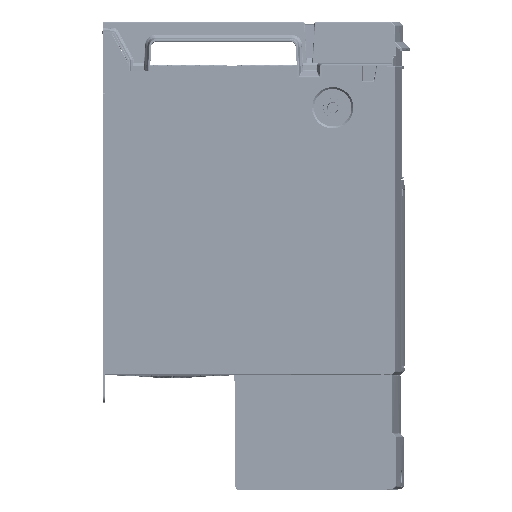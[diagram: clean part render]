
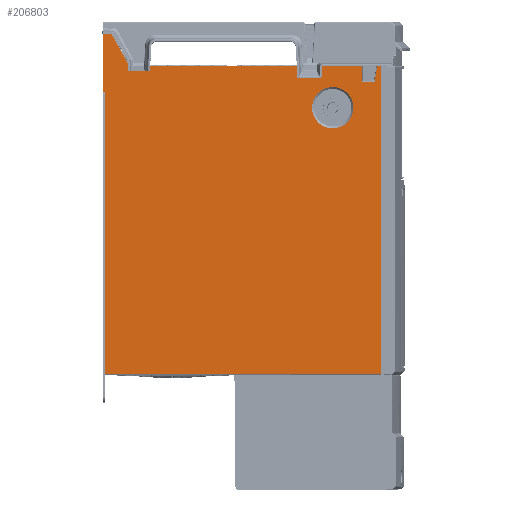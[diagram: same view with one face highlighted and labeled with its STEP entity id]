
A CAD part, top view. The second image highlights one B-rep face of the part: STEP entity #206803.
In plain terms, the highlighted planar face has unit normal (0, 0, 1).
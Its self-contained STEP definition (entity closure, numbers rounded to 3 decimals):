
#13532=DIRECTION('',(-1.,0.,0.));
#13533=VECTOR('',#13532,186.051);
#13534=CARTESIAN_POINT('',(202.268,247.,26.2));
#13535=LINE('',#13534,#13533);
#13723=DIRECTION('',(-1.,0.,0.));
#13724=VECTOR('',#13723,3.299);
#13725=CARTESIAN_POINT('',(217.812,247.,26.2));
#13726=LINE('',#13725,#13724);
#13731=DIRECTION('',(0.,1.,0.));
#13732=VECTOR('',#13731,246.);
#13733=CARTESIAN_POINT('',(217.812,1.,
26.2));
#13734=LINE('',#13733,#13732);
#13735=DIRECTION('',(1.,0.,0.));
#13736=VECTOR('',#13735,220.812);
#13737=CARTESIAN_POINT('',(-3.,1.,26.2));
#13738=LINE('',#13737,#13736);
#13946=DIRECTION('',(0.,-1.,0.));
#13947=VECTOR('',#13946,224.);
#13948=CARTESIAN_POINT('',(-3.,225.,26.2));
#13949=LINE('',#13948,#13947);
#14824=DIRECTION('',(0.,-1.,0.));
#14825=VECTOR('',#14824,1.506);
#14826=CARTESIAN_POINT('',(-3.,226.506,26.2));
#14827=LINE('',#14826,#14825);
#16063=DIRECTION('',(-1.,0.,0.));
#16064=VECTOR('',#16063,6.706);
#16065=CARTESIAN_POINT('',(2.206,273.,26.2));
#16066=LINE('',#16065,#16064);
#28974=DIRECTION('',(-0.087,0.996,0.));
#28975=VECTOR('',#28974,0.947);
#28976=CARTESIAN_POINT('',(16.217,247.,26.2));
#28977=LINE('',#28976,#28975);
#28992=DIRECTION('',(0.,1.,0.));
#28993=VECTOR('',#28992,46.46);
#28994=CARTESIAN_POINT('',(-4.5,226.54,26.2));
#28995=LINE('',#28994,#28993);
#28996=DIRECTION('',(0.486,-0.874,0.));
#28997=VECTOR('',#28996,28.667);
#28998=CARTESIAN_POINT('',(2.206,273.,26.2));
#28999=LINE('',#28998,#28997);
#29000=DIRECTION('',(0.174,0.985,0.));
#29001=VECTOR('',#29000,12.319);
#29002=CARTESIAN_POINT('',(212.372,234.868,26.2));
#29003=LINE('',#29002,#29001);
#29004=CARTESIAN_POINT('',(179.,214.,26.2));
#29005=DIRECTION('',(0.,0.,-1.));
#29006=DIRECTION('',(0.,-1.,0.));
#29007=AXIS2_PLACEMENT_3D('',#29004,#29005,#29006);
#29014=CARTESIAN_POINT('',(179.,214.,26.2));
#29015=DIRECTION('',(0.,0.,-1.));
#29016=DIRECTION('',(0.,1.,0.));
#29017=AXIS2_PLACEMENT_3D('',#29014,#29015,#29016);
#70565=DIRECTION('',(1.,-0.023,0.));
#70566=VECTOR('',#70565,1.5);
#70567=CARTESIAN_POINT('',(-4.5,226.54,26.2));
#70568=LINE('',#70567,#70566);
#75708=DIRECTION('',(0.,1.,0.));
#75709=VECTOR('',#75708,12.132);
#75710=CARTESIAN_POINT('',(202.268,234.868,26.2));
#75711=LINE('',#75710,#75709);
#75764=DIRECTION('',(-1.,0.,0.));
#75765=VECTOR('',#75764,10.104);
#75766=CARTESIAN_POINT('',(212.372,234.868,26.2));
#75767=LINE('',#75766,#75765);
#130161=CARTESIAN_POINT('',(-4.5,273.,26.2));
#130162=VERTEX_POINT('',#130161);
#130163=CARTESIAN_POINT('',(-4.5,226.54,26.2));
#130164=VERTEX_POINT('',#130163);
#131896=CARTESIAN_POINT('',(179.,197.5,26.2));
#131898=VERTEX_POINT('',#131896);
#131900=CARTESIAN_POINT('',(16.217,247.,26.2));
#131901=CARTESIAN_POINT('',(16.134,247.944,26.2));
#131902=VERTEX_POINT('',#131900);
#131903=VERTEX_POINT('',#131901);
#131904=CARTESIAN_POINT('',(212.372,234.868,
26.2));
#131905=CARTESIAN_POINT('',(214.513,247.,
26.2));
#131906=VERTEX_POINT('',#131904);
#131907=VERTEX_POINT('',#131905);
#131908=CARTESIAN_POINT('',(217.812,1.,
26.2));
#131909=CARTESIAN_POINT('',(217.812,247.,
26.2));
#131910=VERTEX_POINT('',#131908);
#131911=VERTEX_POINT('',#131909);
#131912=CARTESIAN_POINT('',(-3.,226.506,26.2));
#131913=VERTEX_POINT('',#131912);
#131914=CARTESIAN_POINT('',(2.206,273.,26.2));
#131915=VERTEX_POINT('',#131914);
#134139=CARTESIAN_POINT('',(202.268,234.868,26.2));
#134140=VERTEX_POINT('',#134139);
#134153=CARTESIAN_POINT('',(202.268,247.,26.2));
#134154=VERTEX_POINT('',#134153);
#137363=CARTESIAN_POINT('',(179.,230.5,26.2));
#137365=VERTEX_POINT('',#137363);
#161477=CARTESIAN_POINT('',(-3.,225.,26.2));
#161479=VERTEX_POINT('',#161477);
#161565=CARTESIAN_POINT('',(-3.,1.,26.2));
#161566=VERTEX_POINT('',#161565);
#206772=CARTESIAN_POINT('',(106.656,137.,26.2));
#206773=DIRECTION('',(0.,0.,1.));
#206774=DIRECTION('',(1.,0.,0.));
#206775=AXIS2_PLACEMENT_3D('',#206772,#206773,#206774);
#206776=PLANE('',#206775);
#206777=ORIENTED_EDGE('',*,*,#185313,.F.);
#206779=ORIENTED_EDGE('',*,*,#206778,.F.);
#206780=ORIENTED_EDGE('',*,*,#188324,.T.);
#206781=ORIENTED_EDGE('',*,*,#188347,.F.);
#206782=ORIENTED_EDGE('',*,*,#206765,.T.);
#206783=ORIENTED_EDGE('',*,*,#206682,.F.);
#206784=ORIENTED_EDGE('',*,*,#184149,.F.);
#206786=ORIENTED_EDGE('',*,*,#206785,.F.);
#206788=ORIENTED_EDGE('',*,*,#206787,.F.);
#206790=ORIENTED_EDGE('',*,*,#206789,.T.);
#206791=ORIENTED_EDGE('',*,*,#184336,.F.);
#206792=ORIENTED_EDGE('',*,*,#184350,.F.);
#206793=ORIENTED_EDGE('',*,*,#184363,.F.);
#206794=ORIENTED_EDGE('',*,*,#184460,.F.);
#206795=EDGE_LOOP('',(#206777,#206779,#206780,#206781,#206782,#206783,#206784,
#206786,#206788,#206790,#206791,#206792,#206793,#206794));
#206796=FACE_OUTER_BOUND('',#206795,.F.);
#206798=ORIENTED_EDGE('',*,*,#206797,.F.);
#206800=ORIENTED_EDGE('',*,*,#206799,.F.);
#206801=EDGE_LOOP('',(#206798,#206800));
#206802=FACE_BOUND('',#206801,.F.);
#206803=ADVANCED_FACE('',(#206796,#206802),#206776,.T.);
#29008=CIRCLE('',#29007,16.5);
#29018=CIRCLE('',#29017,16.5);
#184149=EDGE_CURVE('',#134154,#131902,#13535,.T.);
#184336=EDGE_CURVE('',#131911,#131907,#13726,.T.);
#184350=EDGE_CURVE('',#131910,#131911,#13734,.T.);
#184363=EDGE_CURVE('',#161566,#131910,#13738,.T.);
#184460=EDGE_CURVE('',#161479,#161566,#13949,.T.);
#185313=EDGE_CURVE('',#131913,#161479,#14827,.T.);
#188324=EDGE_CURVE('',#130164,#130162,#28995,.T.);
#188347=EDGE_CURVE('',#131915,#130162,#16066,.T.);
#206682=EDGE_CURVE('',#131902,#131903,#28977,.T.);
#206765=EDGE_CURVE('',#131915,#131903,#28999,.T.);
#206778=EDGE_CURVE('',#130164,#131913,#70568,.T.);
#206785=EDGE_CURVE('',#134140,#134154,#75711,.T.);
#206787=EDGE_CURVE('',#131906,#134140,#75767,.T.);
#206789=EDGE_CURVE('',#131906,#131907,#29003,.T.);
#206797=EDGE_CURVE('',#131898,#137365,#29008,.T.);
#206799=EDGE_CURVE('',#137365,#131898,#29018,.T.);
